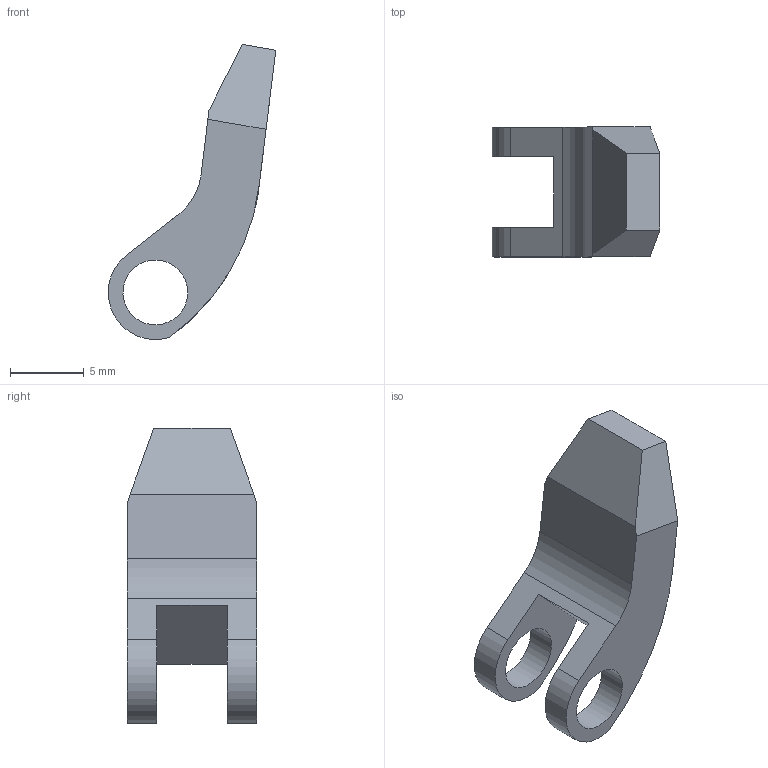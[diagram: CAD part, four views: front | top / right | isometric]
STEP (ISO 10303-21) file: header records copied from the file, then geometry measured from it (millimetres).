
FILE_DESCRIPTION(/* description */ (''),/* implementation_level */ '2;1');
FILE_NAME(/* name */ '6-18-2 Joy lever two.step',/* time_stamp */ '2025-05-10T22:37:47+02:00',/* author */ (''),/* organization */ (''),/* preprocessor_version */ 'ST-DEVELOPER v20.1',/* originating_system */ 'Autodesk Translation Framework v14.4.0.0',/* authorisation */ '');
FILE_SCHEMA (('AUTOMOTIVE_DESIGN { 1 0 10303 214 3 1 1 }'));
Length unit declared in the file: millimetre
Products named in the file (1): 6-18-2 Joy lever two
Bounding box: 11.36 x 8.8 x 20.02 mm (x, y, z)
Volume: 549 mm3; surface area: 654 mm2
Topology: 1 solids, 1 shells, 22 faces, 57 edges, 38 vertices
Faces by surface type: plane 14, cylinder 8
Full cylindrical faces by diameter (mm): 4.4 x2, 5.5 x1, 8 x1
Entity records: 740 total; most frequent: CARTESIAN_POINT 132, DIRECTION 121, ORIENTED_EDGE 114, EDGE_CURVE 57, AXIS2_PLACEMENT_3D 42, VERTEX_POINT 38, LINE 37, VECTOR 37
